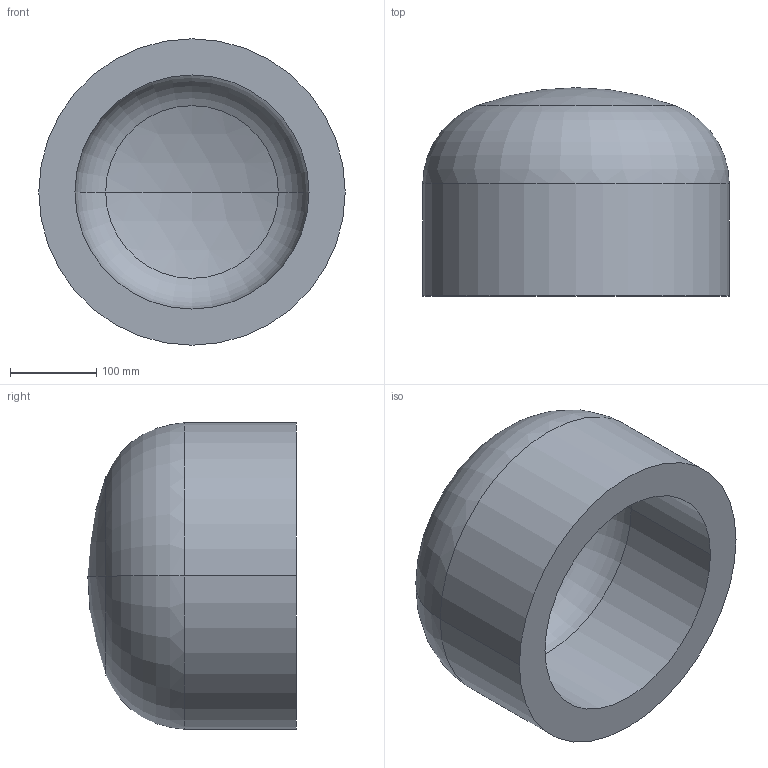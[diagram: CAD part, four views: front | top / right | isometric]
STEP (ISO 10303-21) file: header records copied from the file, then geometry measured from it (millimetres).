
FILE_DESCRIPTION (( 'STEP AP203' ), '1' );
FILE_NAME ('DIN 28013 Korbbogenform_-_Boden DIN 28013 - 355,6 x 130 - I - s=42.step', '2016-07-01T07:48:13', ( '' ), ( '' ), 'SwSTEP 2.0', 'SolidWorks 2013', '' );
FILE_SCHEMA (( 'CONFIG_CONTROL_DESIGN' ));
Length unit declared in the file: millimetre
Products named in the file (1): DIN 28013 Korbbogenform_-_Boden DIN 28013 - 355,6 x 130 - I - s=42
Bounding box: 355.6 x 241.73 x 355.6 mm (x, y, z)
Volume: 10384229.8 mm3; surface area: 539560.2 mm2
Topology: 1 solids, 1 shells, 13 faces, 24 edges, 14 vertices
Faces by surface type: torus 4, cylinder 4, sphere 4, plane 1
Entity records: 407 total; most frequent: DIRECTION 72, CARTESIAN_POINT 52, ORIENTED_EDGE 48, AXIS2_PLACEMENT_3D 34, EDGE_CURVE 24, CIRCLE 20, EDGE_LOOP 14, VERTEX_POINT 14
